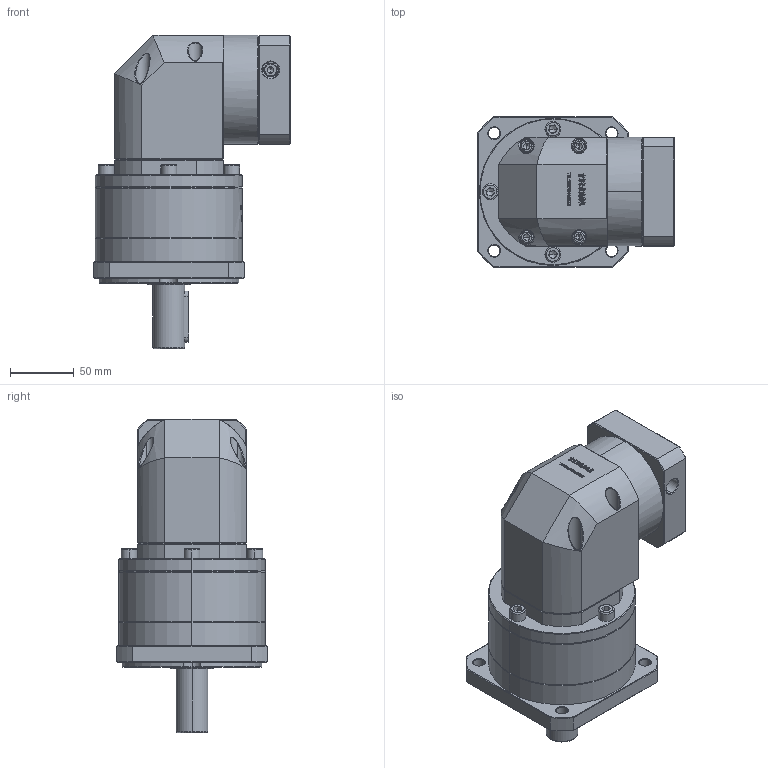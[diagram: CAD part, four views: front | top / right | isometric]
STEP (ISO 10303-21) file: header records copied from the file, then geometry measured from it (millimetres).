
FILE_DESCRIPTION (( 'STEP AP214' ), '1' );
FILE_NAME ('ZFR120A-D25-L2-19-70-90-M6.step', '2023-03-08T05:46:23', ( '' ), ( '' ), 'SwSTEP 2.0', 'SolidWorks 2016', '' );
FILE_SCHEMA (( 'AUTOMOTIVE_DESIGN' ));
Length unit declared in the file: millimetre
Products named in the file (1): ZFR120A-D25-L2-19-70-90-M6
Bounding box: 154.1 x 118 x 245 mm (x, y, z)
Volume: 1854820.4 mm3; surface area: 170449.6 mm2
Topology: 6 solids, 6 shells, 2999 faces, 7953 edges, 5100 vertices
Faces by surface type: plane 1578, bspline 625, cylinder 453, cone 329, torus 14
Entity records: 163536 total; most frequent: CARTESIAN_POINT 62146, ORIENTED_EDGE 15814, DIRECTION 11641, EDGE_CURVE 7907, VERTEX_POINT 5100, VECTOR 4929, LINE 4929, AXIS2_PLACEMENT_3D 3356
